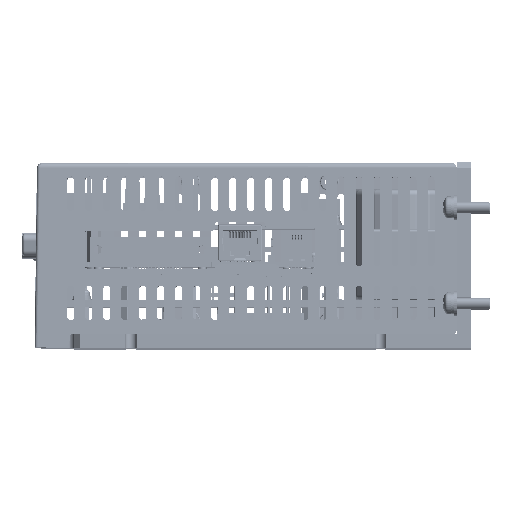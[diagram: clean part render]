
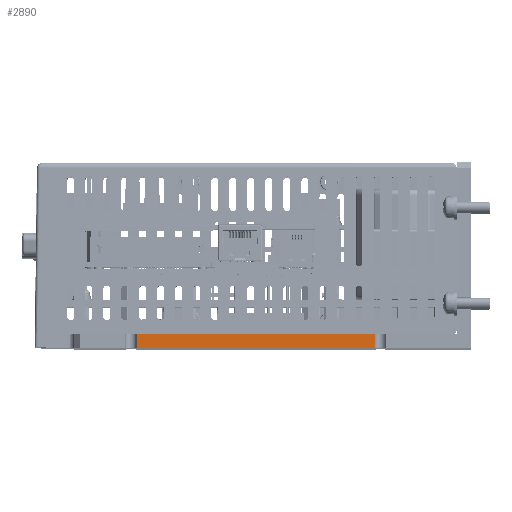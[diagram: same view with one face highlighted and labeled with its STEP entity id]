
A CAD part, top view. The second image highlights one B-rep face of the part: STEP entity #2890.
In plain terms, the highlighted planar face has unit normal (0, 0, 1).
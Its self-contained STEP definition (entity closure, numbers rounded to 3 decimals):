
#788=CARTESIAN_POINT('',(-120.4,5.0,135.0));
#789=VERTEX_POINT('',#788);
#796=CARTESIAN_POINT('',(-34.6,5.0,135.0));
#797=VERTEX_POINT('',#796);
#798=CARTESIAN_POINT('',(-120.4,5.0,135.0));
#799=DIRECTION('',(1.0,0.0,0.0));
#800=VECTOR('',#799,85.8);
#801=LINE('',#798,#800);
#802=EDGE_CURVE('',#789,#797,#801,.T.);
#1418=CARTESIAN_POINT('',(-34.6,0.0,135.0));
#1419=VERTEX_POINT('',#1418);
#1426=CARTESIAN_POINT('',(-120.4,0.0,135.0));
#1427=VERTEX_POINT('',#1426);
#1428=CARTESIAN_POINT('',(-34.6,0.0,135.0));
#1429=DIRECTION('',(-1.0,0.0,0.0));
#1430=VECTOR('',#1429,85.8);
#1431=LINE('',#1428,#1430);
#1432=EDGE_CURVE('',#1419,#1427,#1431,.T.);
#2521=CARTESIAN_POINT('',(-120.4,5.0,135.0));
#2522=DIRECTION('',(0.0,-1.0,0.0));
#2523=VECTOR('',#2522,5.0);
#2524=LINE('',#2521,#2523);
#2525=EDGE_CURVE('',#789,#1427,#2524,.T.);
#2613=CARTESIAN_POINT('',(-34.6,0.0,135.0));
#2614=DIRECTION('',(0.0,1.0,0.0));
#2615=VECTOR('',#2614,5.0);
#2616=LINE('',#2613,#2615);
#2617=EDGE_CURVE('',#1419,#797,#2616,.T.);
#2879=CARTESIAN_POINT('',(-56.554,12.554,135.0));
#2880=DIRECTION('',(0.0,0.0,1.0));
#2881=DIRECTION('',(1.0,0.0,0.0));
#2882=AXIS2_PLACEMENT_3D('',#2879,#2880,#2881);
#2883=PLANE('',#2882);
#2884=ORIENTED_EDGE('',*,*,#2525,.T.);
#2885=ORIENTED_EDGE('',*,*,#1432,.F.);
#2886=ORIENTED_EDGE('',*,*,#2617,.T.);
#2887=ORIENTED_EDGE('',*,*,#802,.F.);
#2888=EDGE_LOOP('',(#2884,#2885,#2886,#2887));
#2889=FACE_OUTER_BOUND('',#2888,.T.);
#2890=ADVANCED_FACE('',(#2889),#2883,.T.);
